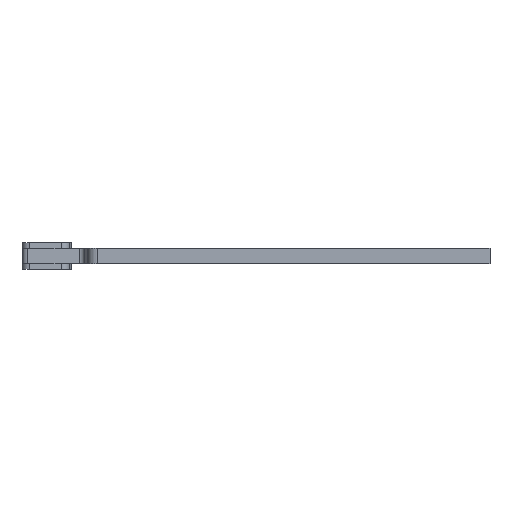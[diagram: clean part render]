
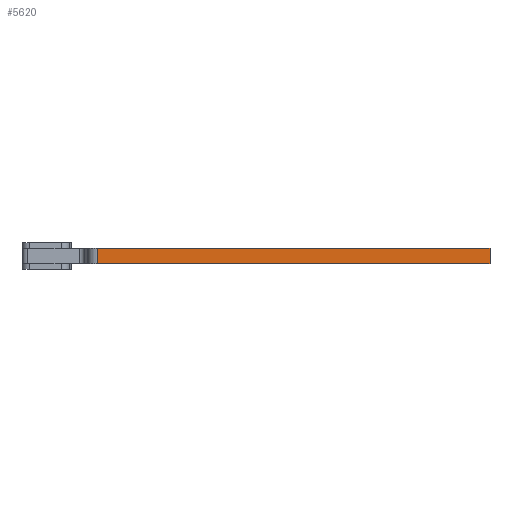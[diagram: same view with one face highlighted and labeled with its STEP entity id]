
A CAD part, front view. The second image highlights one B-rep face of the part: STEP entity #5620.
In plain terms, the highlighted planar face has unit normal (0, -1, 0).
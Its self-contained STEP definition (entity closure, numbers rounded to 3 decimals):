
#498=LINE('',#9383,#1029);
#514=LINE('',#9436,#1045);
#554=LINE('',#9537,#1085);
#555=LINE('',#9539,#1086);
#1029=VECTOR('',#7730,949.266);
#1045=VECTOR('',#7770,38.1);
#1085=VECTOR('',#7882,38.1);
#1086=VECTOR('',#7885,949.266);
#1251=PLANE('',#6200);
#1607=FACE_OUTER_BOUND('',#1947,.T.);
#1947=EDGE_LOOP('',(#5032,#5033,#5034,#5035));
#2723=VERTEX_POINT('',#9381);
#2724=VERTEX_POINT('',#9382);
#2749=VERTEX_POINT('',#9435);
#2774=VERTEX_POINT('',#9535);
#3498=EDGE_CURVE('',#2723,#2724,#498,.T.);
#3525=EDGE_CURVE('',#2749,#2724,#514,.T.);
#3576=EDGE_CURVE('',#2723,#2774,#554,.T.);
#3577=EDGE_CURVE('',#2749,#2774,#555,.T.);
#5032=ORIENTED_EDGE('',*,*,#3576,.T.);
#5033=ORIENTED_EDGE('',*,*,#3577,.F.);
#5034=ORIENTED_EDGE('',*,*,#3525,.T.);
#5035=ORIENTED_EDGE('',*,*,#3498,.F.);
#5620=ADVANCED_FACE('',(#1607),#1251,.T.);
#6200=AXIS2_PLACEMENT_3D('',#9538,#7883,#7884);
#7730=DIRECTION('',(-1.,0.,0.));
#7770=DIRECTION('',(0.,0.,-1.));
#7882=DIRECTION('',(0.,0.,1.));
#7883=DIRECTION('center_axis',(0.,-1.,0.));
#7884=DIRECTION('ref_axis',(1.,0.,0.));
#7885=DIRECTION('',(1.,0.,0.));
#9381=CARTESIAN_POINT('',(0.,0.,-19.05));
#9382=CARTESIAN_POINT('',(-949.266,0.,-19.05));
#9383=CARTESIAN_POINT('',(0.,0.,-19.05));
#9435=CARTESIAN_POINT('',(-949.266,0.,19.05));
#9436=CARTESIAN_POINT('',(-949.266,0.,0.));
#9535=CARTESIAN_POINT('',(0.,0.,19.05));
#9537=CARTESIAN_POINT('',(0.,0.,0.));
#9538=CARTESIAN_POINT('Origin',(-949.266,0.,
0.));
#9539=CARTESIAN_POINT('',(0.,0.,19.05));
